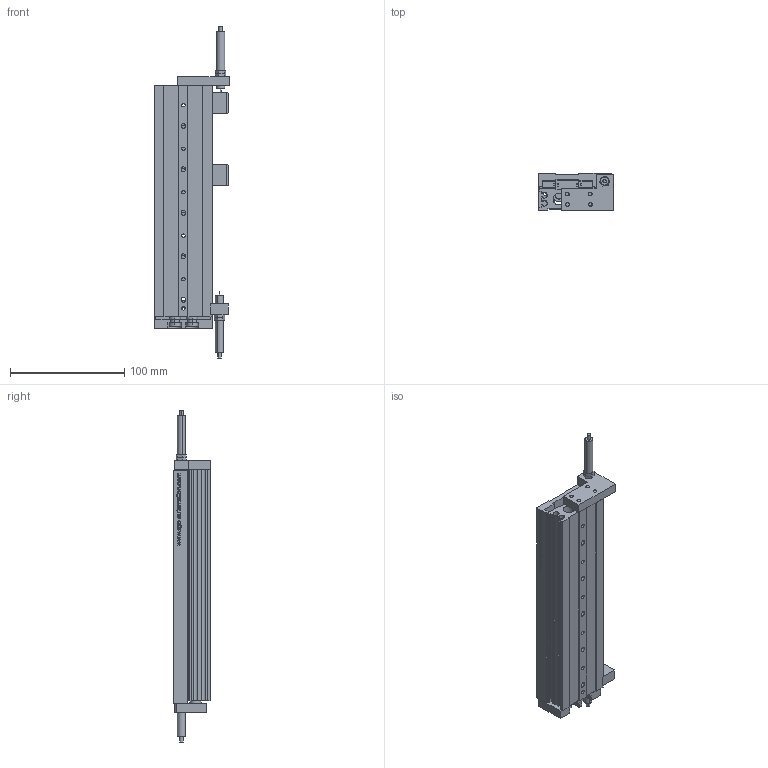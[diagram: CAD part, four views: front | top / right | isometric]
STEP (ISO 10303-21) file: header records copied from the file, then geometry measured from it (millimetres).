
FILE_DESCRIPTION (( 'STEP AP203' ), '1' );
FILE_NAME ('GDX 12-100 .STEP', '2013-02-25T10:22:31', ( 'Conseil Régional Haute-Normandie' ), ( 'Conseil Régional Haute-Normandie' ), 'SwSTEP 2.0', 'SolidWorks 2010', '' );
FILE_SCHEMA (( 'CONFIG_CONTROL_DESIGN' ));
Length unit declared in the file: millimetre
Products named in the file (14): GDX12-100 Pièce6_Default; GDX12-10 pièce 1; GDX12-10 Pièce 2; GDX12-10 Pièce 4; GDX25-10 Pièce14_Default; GDX12-100 Pièce7_Default; GDX 12-100 ; GDX25-100 Pièce8_Default; GDX25-100 Pièce9_Default; GDX12-10 Pièce3_Default; GDX25-10 Pièce12_Default; GDX 12-10 Pièce5_Default; GDX25-10 Pièce13_Default; GDX12-50 Pièce11_Default
Assembly tree (31 placements, depth 2):
  GDX 12-100 
    GDX25-10 Pièce13_Default  x10
    GDX25-100 Pièce9_Default
    GDX12-10 Pièce3_Default  x2
    GDX12-100 Pièce7_Default
    GDX12-10 Pièce 4
    GDX25-10 Pièce12_Default  x4
    GDX12-10 Pièce 2
    GDX 12-10 Pièce5_Default  x2
    GDX25-100 Pièce8_Default  x2
    GDX12-50 Pièce11_Default  x2
    GDX25-10 Pièce14_Default  x3
    GDX12-100 Pièce6_Default
    GDX12-10 pièce 1
Bounding box: 65 x 32 x 290.1 mm (x, y, z)
Volume: 271672.1 mm3; surface area: 125371.9 mm2
Topology: 31 solids, 31 shells, 819 faces, 2076 edges, 1354 vertices
Faces by surface type: plane 410, cylinder 240, bspline 133, cone 28, torus 8
Entity records: 32692 total; most frequent: CARTESIAN_POINT 14868, ORIENTED_EDGE 3440, DIRECTION 2888, EDGE_CURVE 1720, VERTEX_POINT 1138, VECTOR 1112, LINE 1112, AXIS2_PLACEMENT_3D 888
